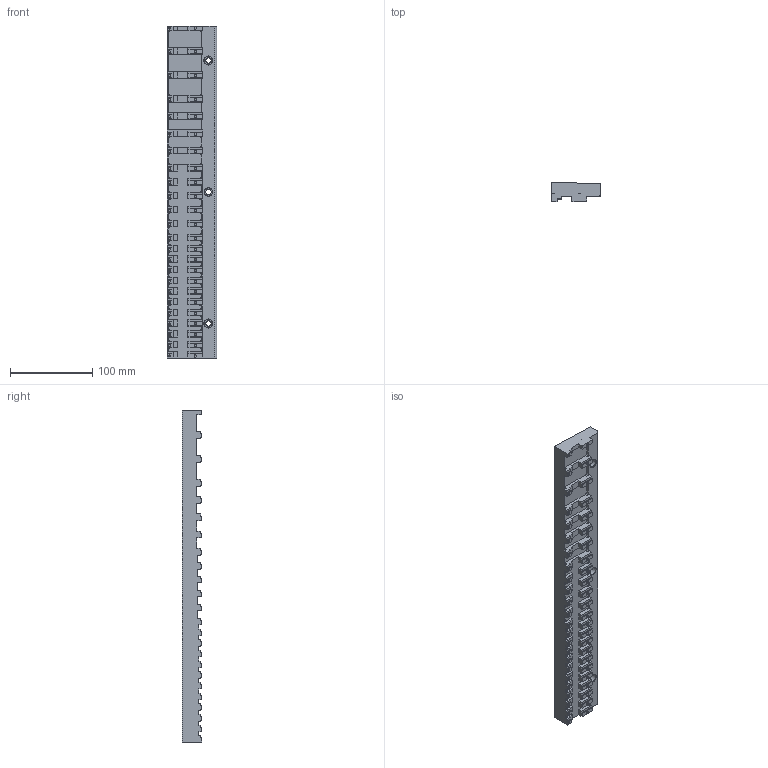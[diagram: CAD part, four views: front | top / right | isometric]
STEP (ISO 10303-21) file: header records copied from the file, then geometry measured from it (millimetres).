
FILE_DESCRIPTION(('STEP AP214'), '1');
FILE_NAME('矧蠉蠈錪', '', ('UNSPECIFIED'), ('UNSPECIFIED'), 'C3D Converter', 'C3D Toolkit', '');
FILE_SCHEMA(('AUTOMOTIVE_DESIGN { 1 0 10303 214 3 1 1}'));
Length unit declared in the file: millimetre
Bounding box: 60 x 23.35 x 404 mm (x, y, z)
Volume: 403788.9 mm3; surface area: 83055.5 mm2
Topology: 1 solids, 1 shells, 678 faces, 1915 edges, 1268 vertices
Faces by surface type: plane 527, cylinder 125, cone 24, bspline 2
Full cylindrical faces by diameter (mm): 2.5 x24, 3 x24, 6.8 x3, 10 x3
Entity records: 27237 total; most frequent: CARTESIAN_POINT 4434, ORIENTED_EDGE 3626, DIRECTION 3411, EDGE_CURVE 1813, LINE 1559, VECTOR 1559, VERTEX_POINT 1246, AXIS2_PLACEMENT_3D 926
